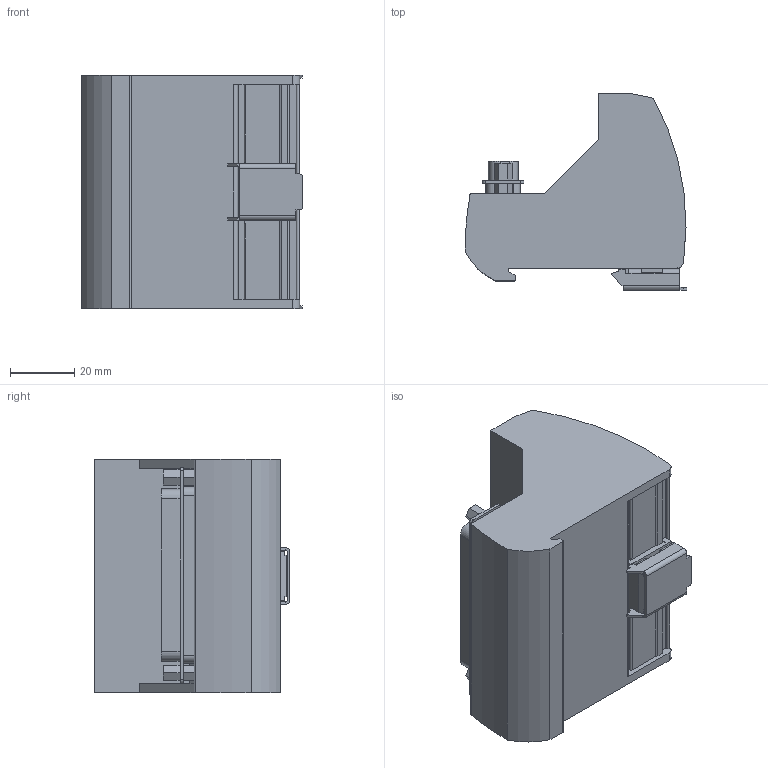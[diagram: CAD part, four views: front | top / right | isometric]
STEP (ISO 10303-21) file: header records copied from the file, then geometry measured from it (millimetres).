
FILE_DESCRIPTION(('SolidDesigner STEP Export'),'2;1');
FILE_NAME('2322171_VIP_3_SC_D37SUB_M_LED-select.stp','2017-01-20T13:25:32',(''),(''),'Creo Elements/Direct Modeling STEP processor for AP214 (Solid Model)','Creo Elements/Direct Modeling 18.1G 27-Feb-2015 (C) Parametric Technology GmbH','');
FILE_SCHEMA(('AUTOMOTIVE_DESIGN { 1 0 10303 214 1 1 1 1 }'));
Length unit declared in the file: millimetre
Products named in the file (2): 2322171_VIP_3_SC_D37SUB_M_LED-select
Assembly tree (1 placements, depth 2):
  2322171_VIP_3_SC_D37SUB_M_LED-select
    2322171_VIP_3_SC_D37SUB_M_LED-select
Bounding box: 69.05 x 60.97 x 72.68 mm (x, y, z)
Volume: 153492.4 mm3; surface area: 33538.1 mm2
Topology: 1 solids, 1 shells, 863 faces, 2346 edges, 1471 vertices
Faces by surface type: plane 659, cylinder 204
Entity records: 26637 total; most frequent: ORIENTED_EDGE 4484, CARTESIAN_POINT 4279, DIRECTION 3973, EDGE_CURVE 2242, VECTOR 1747, LINE 1747, VERTEX_POINT 1419, AXIS2_PLACEMENT_3D 1113
